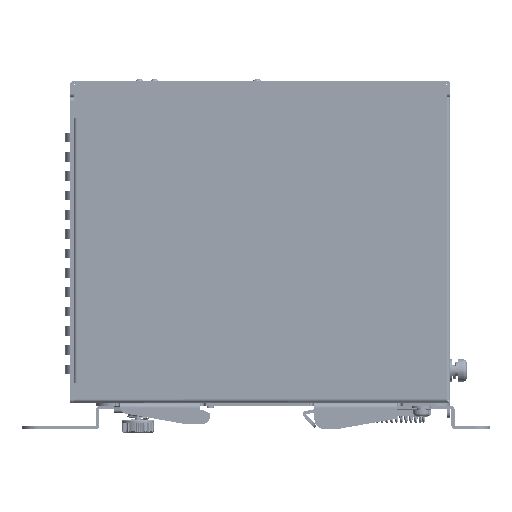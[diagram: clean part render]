
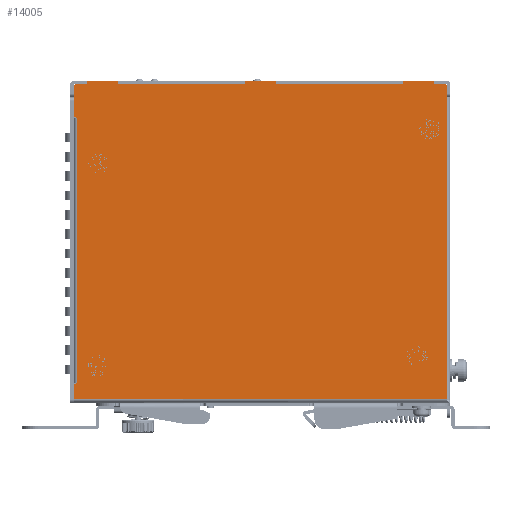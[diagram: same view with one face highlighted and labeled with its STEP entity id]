
A CAD part, left-side view. The second image highlights one B-rep face of the part: STEP entity #14005.
In plain terms, the highlighted planar face has unit normal (-1, 0, 0).
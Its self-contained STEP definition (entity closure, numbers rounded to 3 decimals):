
#120=DIRECTION('',(0.,-1.,0.));
#121=VECTOR('',#120,39.4);
#122=CARTESIAN_POINT('',(-1.,-4.8,0.));
#123=LINE('',#122,#121);
#124=DIRECTION('',(0.,0.,-1.));
#125=VECTOR('',#124,0.8);
#126=CARTESIAN_POINT('',(-1.,-44.2,0.8));
#127=LINE('',#126,#125);
#128=DIRECTION('',(0.,1.,0.));
#129=VECTOR('',#128,9.6);
#130=CARTESIAN_POINT('',(-1.,-53.8,0.8));
#131=LINE('',#130,#129);
#132=DIRECTION('',(0.,0.,1.));
#133=VECTOR('',#132,0.8);
#134=CARTESIAN_POINT('',(-1.,-53.8,0.));
#135=LINE('',#134,#133);
#136=DIRECTION('',(0.,-1.,0.));
#137=VECTOR('',#136,3.5);
#138=CARTESIAN_POINT('',(-1.,-53.8,0.));
#139=LINE('',#138,#137);
#140=CARTESIAN_POINT('',(-1.,-57.3,-0.5));
#141=DIRECTION('',(-1.,0.,0.));
#142=DIRECTION('',(0.,-1.,0.));
#143=AXIS2_PLACEMENT_3D('',#140,#141,#142);
#145=DIRECTION('',(0.,0.,-1.));
#146=VECTOR('',#145,3.7);
#147=CARTESIAN_POINT('',(-1.,-57.8,-0.5));
#148=LINE('',#147,#146);
#149=CARTESIAN_POINT('',(-1.,57.5,-93.4));
#150=DIRECTION('',(-1.,0.,0.));
#151=DIRECTION('',(0.,0.,1.));
#152=AXIS2_PLACEMENT_3D('',#149,#150,#151);
#154=DIRECTION('',(0.,-1.,0.));
#155=VECTOR('',#154,0.65);
#156=CARTESIAN_POINT('',(-1.,57.5,-92.9));
#157=LINE('',#156,#155);
#158=CARTESIAN_POINT('',(-1.,56.85,-92.85));
#159=DIRECTION('',(-1.,0.,0.));
#160=DIRECTION('',(0.,0.,-1.));
#161=AXIS2_PLACEMENT_3D('',#158,#159,#160);
#163=DIRECTION('',(0.,0.,-1.));
#164=VECTOR('',#163,0.05);
#165=CARTESIAN_POINT('',(-1.,56.8,-92.8));
#166=LINE('',#165,#164);
#167=DIRECTION('',(0.,0.,-1.));
#168=VECTOR('',#167,0.05);
#169=CARTESIAN_POINT('',(-1.,56.8,-10.65));
#170=LINE('',#169,#168);
#171=CARTESIAN_POINT('',(-1.,56.85,-10.65));
#172=DIRECTION('',(1.,0.,0.));
#173=DIRECTION('',(0.,0.,1.));
#174=AXIS2_PLACEMENT_3D('',#171,#172,#173);
#176=DIRECTION('',(0.,-1.,0.));
#177=VECTOR('',#176,0.45);
#178=CARTESIAN_POINT('',(-1.,57.3,-10.6));
#179=LINE('',#178,#177);
#180=CARTESIAN_POINT('',(-1.,57.3,-10.1));
#181=DIRECTION('',(-1.,0.,0.));
#182=DIRECTION('',(0.,1.,0.));
#183=AXIS2_PLACEMENT_3D('',#180,#181,#182);
#185=DIRECTION('',(0.,0.,1.));
#186=VECTOR('',#185,5.9);
#187=CARTESIAN_POINT('',(-1.,57.8,-10.1));
#188=LINE('',#187,#186);
#189=DIRECTION('',(0.,0.,-1.));
#190=VECTOR('',#189,3.7);
#191=CARTESIAN_POINT('',(-1.,57.8,-0.5));
#192=LINE('',#191,#190);
#193=CARTESIAN_POINT('',(-1.,57.3,-0.5));
#194=DIRECTION('',(-1.,0.,0.));
#195=DIRECTION('',(0.,0.,1.));
#196=AXIS2_PLACEMENT_3D('',#193,#194,#195);
#198=DIRECTION('',(0.,-1.,0.));
#199=VECTOR('',#198,3.5);
#200=CARTESIAN_POINT('',(-1.,57.3,0.));
#201=LINE('',#200,#199);
#202=DIRECTION('',(0.,0.,-1.));
#203=VECTOR('',#202,0.8);
#204=CARTESIAN_POINT('',(-1.,53.8,0.8));
#205=LINE('',#204,#203);
#206=DIRECTION('',(0.,1.,0.));
#207=VECTOR('',#206,9.6);
#208=CARTESIAN_POINT('',(-1.,44.2,0.8));
#209=LINE('',#208,#207);
#210=DIRECTION('',(0.,0.,1.));
#211=VECTOR('',#210,0.8);
#212=CARTESIAN_POINT('',(-1.,44.2,0.));
#213=LINE('',#212,#211);
#214=DIRECTION('',(0.,-1.,0.));
#215=VECTOR('',#214,39.4);
#216=CARTESIAN_POINT('',(-1.,44.2,0.));
#217=LINE('',#216,#215);
#218=DIRECTION('',(0.,0.,-1.));
#219=VECTOR('',#218,0.8);
#220=CARTESIAN_POINT('',(-1.,4.8,0.8));
#221=LINE('',#220,#219);
#222=DIRECTION('',(0.,1.,0.));
#223=VECTOR('',#222,9.6);
#224=CARTESIAN_POINT('',(-1.,-4.8,0.8));
#225=LINE('',#224,#223);
#226=DIRECTION('',(0.,0.,1.));
#227=VECTOR('',#226,0.8);
#228=CARTESIAN_POINT('',(-1.,-4.8,0.));
#229=LINE('',#228,#227);
#294=DIRECTION('',(0.,0.,1.));
#295=VECTOR('',#294,82.1);
#296=CARTESIAN_POINT('',(-1.,56.8,-92.8));
#297=LINE('',#296,#295);
#352=DIRECTION('',(0.,0.,-1.));
#353=VECTOR('',#352,4.4);
#354=CARTESIAN_POINT('',(-1.,58.,-93.4));
#355=LINE('',#354,#353);
#390=DIRECTION('',(0.,1.,0.));
#391=VECTOR('',#390,115.8);
#392=CARTESIAN_POINT('',(-1.,-57.8,-97.8));
#393=LINE('',#392,#391);
#6913=DIRECTION('',(0.,0.,-1.));
#6914=VECTOR('',#6913,93.6);
#6915=CARTESIAN_POINT('',(-1.,-57.8,-4.2));
#6916=LINE('',#6915,#6914);
#10518=CARTESIAN_POINT('',(-1.,58.,-97.8));
#10520=VERTEX_POINT('',#10518);
#10521=CARTESIAN_POINT('',(-1.,-57.8,-97.8));
#10522=VERTEX_POINT('',#10521);
#10535=CARTESIAN_POINT('',(-1.,-57.8,-4.2));
#10536=VERTEX_POINT('',#10535);
#10565=CARTESIAN_POINT('',(-1.,57.3,0.));
#10566=VERTEX_POINT('',#10565);
#10567=CARTESIAN_POINT('',(-1.,57.8,-0.5));
#10568=VERTEX_POINT('',#10567);
#10573=CARTESIAN_POINT('',(-1.,-57.8,-0.5));
#10574=VERTEX_POINT('',#10573);
#10575=CARTESIAN_POINT('',(-1.,-57.3,0.));
#10576=VERTEX_POINT('',#10575);
#10901=CARTESIAN_POINT('',(-1.,56.85,-10.6));
#10903=VERTEX_POINT('',#10901);
#10907=CARTESIAN_POINT('',(-1.,56.8,-10.65));
#10908=VERTEX_POINT('',#10907);
#10911=CARTESIAN_POINT('',(-1.,56.8,-10.7));
#10912=VERTEX_POINT('',#10911);
#10916=CARTESIAN_POINT('',(-1.,56.85,-92.9));
#10918=VERTEX_POINT('',#10916);
#10919=CARTESIAN_POINT('',(-1.,56.8,-92.8));
#10920=VERTEX_POINT('',#10919);
#10925=CARTESIAN_POINT('',(-1.,56.8,-92.85));
#10926=VERTEX_POINT('',#10925);
#10929=CARTESIAN_POINT('',(-1.,57.8,-4.2));
#10930=VERTEX_POINT('',#10929);
#10935=CARTESIAN_POINT('',(-1.,57.8,-10.1));
#10936=VERTEX_POINT('',#10935);
#10937=CARTESIAN_POINT('',(-1.,57.3,-10.6));
#10938=VERTEX_POINT('',#10937);
#10943=CARTESIAN_POINT('',(-1.,57.5,-92.9));
#10944=VERTEX_POINT('',#10943);
#10945=CARTESIAN_POINT('',(-1.,58.,-93.4));
#10946=VERTEX_POINT('',#10945);
#13808=CARTESIAN_POINT('',(-1.,44.2,0.));
#13809=CARTESIAN_POINT('',(-1.,44.2,0.8));
#13810=VERTEX_POINT('',#13808);
#13811=VERTEX_POINT('',#13809);
#13812=CARTESIAN_POINT('',(-1.,53.8,0.8));
#13813=VERTEX_POINT('',#13812);
#13814=CARTESIAN_POINT('',(-1.,53.8,0.));
#13815=VERTEX_POINT('',#13814);
#13824=CARTESIAN_POINT('',(-1.,-4.8,0.));
#13825=CARTESIAN_POINT('',(-1.,-4.8,0.8));
#13826=VERTEX_POINT('',#13824);
#13827=VERTEX_POINT('',#13825);
#13828=CARTESIAN_POINT('',(-1.,4.8,0.8));
#13829=VERTEX_POINT('',#13828);
#13830=CARTESIAN_POINT('',(-1.,4.8,0.));
#13831=VERTEX_POINT('',#13830);
#13840=CARTESIAN_POINT('',(-1.,-53.8,0.));
#13841=CARTESIAN_POINT('',(-1.,-53.8,0.8));
#13842=VERTEX_POINT('',#13840);
#13843=VERTEX_POINT('',#13841);
#13844=CARTESIAN_POINT('',(-1.,-44.2,0.8));
#13845=VERTEX_POINT('',#13844);
#13846=CARTESIAN_POINT('',(-1.,-44.2,0.));
#13847=VERTEX_POINT('',#13846);
#13939=CARTESIAN_POINT('',(-1.,0.,0.));
#13940=DIRECTION('',(1.,0.,0.));
#13941=DIRECTION('',(0.,-1.,0.));
#13942=AXIS2_PLACEMENT_3D('',#13939,#13940,#13941);
#13943=PLANE('',#13942);
#13945=ORIENTED_EDGE('',*,*,#13944,.T.);
#13947=ORIENTED_EDGE('',*,*,#13946,.F.);
#13949=ORIENTED_EDGE('',*,*,#13948,.F.);
#13951=ORIENTED_EDGE('',*,*,#13950,.F.);
#13952=ORIENTED_EDGE('',*,*,#13929,.T.);
#13954=ORIENTED_EDGE('',*,*,#13953,.F.);
#13956=ORIENTED_EDGE('',*,*,#13955,.T.);
#13958=ORIENTED_EDGE('',*,*,#13957,.T.);
#13960=ORIENTED_EDGE('',*,*,#13959,.T.);
#13962=ORIENTED_EDGE('',*,*,#13961,.F.);
#13964=ORIENTED_EDGE('',*,*,#13963,.F.);
#13966=ORIENTED_EDGE('',*,*,#13965,.T.);
#13968=ORIENTED_EDGE('',*,*,#13967,.T.);
#13970=ORIENTED_EDGE('',*,*,#13969,.F.);
#13972=ORIENTED_EDGE('',*,*,#13971,.T.);
#13974=ORIENTED_EDGE('',*,*,#13973,.F.);
#13976=ORIENTED_EDGE('',*,*,#13975,.F.);
#13978=ORIENTED_EDGE('',*,*,#13977,.F.);
#13980=ORIENTED_EDGE('',*,*,#13979,.F.);
#13982=ORIENTED_EDGE('',*,*,#13981,.T.);
#13984=ORIENTED_EDGE('',*,*,#13983,.F.);
#13986=ORIENTED_EDGE('',*,*,#13985,.F.);
#13988=ORIENTED_EDGE('',*,*,#13987,.T.);
#13990=ORIENTED_EDGE('',*,*,#13989,.F.);
#13992=ORIENTED_EDGE('',*,*,#13991,.F.);
#13994=ORIENTED_EDGE('',*,*,#13993,.F.);
#13996=ORIENTED_EDGE('',*,*,#13995,.T.);
#13998=ORIENTED_EDGE('',*,*,#13997,.F.);
#14000=ORIENTED_EDGE('',*,*,#13999,.F.);
#14002=ORIENTED_EDGE('',*,*,#14001,.F.);
#14003=EDGE_LOOP('',(#13945,#13947,#13949,#13951,#13952,#13954,#13956,#13958,
#13960,#13962,#13964,#13966,#13968,#13970,#13972,#13974,#13976,#13978,#13980,
#13982,#13984,#13986,#13988,#13990,#13992,#13994,#13996,#13998,#14000,#14002));
#14004=FACE_OUTER_BOUND('',#14003,.F.);
#144=CIRCLE('',#143,0.5);
#153=CIRCLE('',#152,0.5);
#162=CIRCLE('',#161,0.05);
#175=CIRCLE('',#174,0.05);
#184=CIRCLE('',#183,0.5);
#197=CIRCLE('',#196,0.5);
#13929=EDGE_CURVE('',#13842,#10576,#139,.T.);
#13944=EDGE_CURVE('',#13826,#13847,#123,.T.);
#13946=EDGE_CURVE('',#13845,#13847,#127,.T.);
#13948=EDGE_CURVE('',#13843,#13845,#131,.T.);
#13950=EDGE_CURVE('',#13842,#13843,#135,.T.);
#13953=EDGE_CURVE('',#10574,#10576,#144,.T.);
#13955=EDGE_CURVE('',#10574,#10536,#148,.T.);
#13957=EDGE_CURVE('',#10536,#10522,#6916,.T.);
#13959=EDGE_CURVE('',#10522,#10520,#393,.T.);
#13961=EDGE_CURVE('',#10946,#10520,#355,.T.);
#13963=EDGE_CURVE('',#10944,#10946,#153,.T.);
#13965=EDGE_CURVE('',#10944,#10918,#157,.T.);
#13967=EDGE_CURVE('',#10918,#10926,#162,.T.);
#13969=EDGE_CURVE('',#10920,#10926,#166,.T.);
#13971=EDGE_CURVE('',#10920,#10912,#297,.T.);
#13973=EDGE_CURVE('',#10908,#10912,#170,.T.);
#13975=EDGE_CURVE('',#10903,#10908,#175,.T.);
#13977=EDGE_CURVE('',#10938,#10903,#179,.T.);
#13979=EDGE_CURVE('',#10936,#10938,#184,.T.);
#13981=EDGE_CURVE('',#10936,#10930,#188,.T.);
#13983=EDGE_CURVE('',#10568,#10930,#192,.T.);
#13985=EDGE_CURVE('',#10566,#10568,#197,.T.);
#13987=EDGE_CURVE('',#10566,#13815,#201,.T.);
#13989=EDGE_CURVE('',#13813,#13815,#205,.T.);
#13991=EDGE_CURVE('',#13811,#13813,#209,.T.);
#13993=EDGE_CURVE('',#13810,#13811,#213,.T.);
#13995=EDGE_CURVE('',#13810,#13831,#217,.T.);
#13997=EDGE_CURVE('',#13829,#13831,#221,.T.);
#13999=EDGE_CURVE('',#13827,#13829,#225,.T.);
#14001=EDGE_CURVE('',#13826,#13827,#229,.T.);
#14005=ADVANCED_FACE('',(#14004),#13943,.F.);
